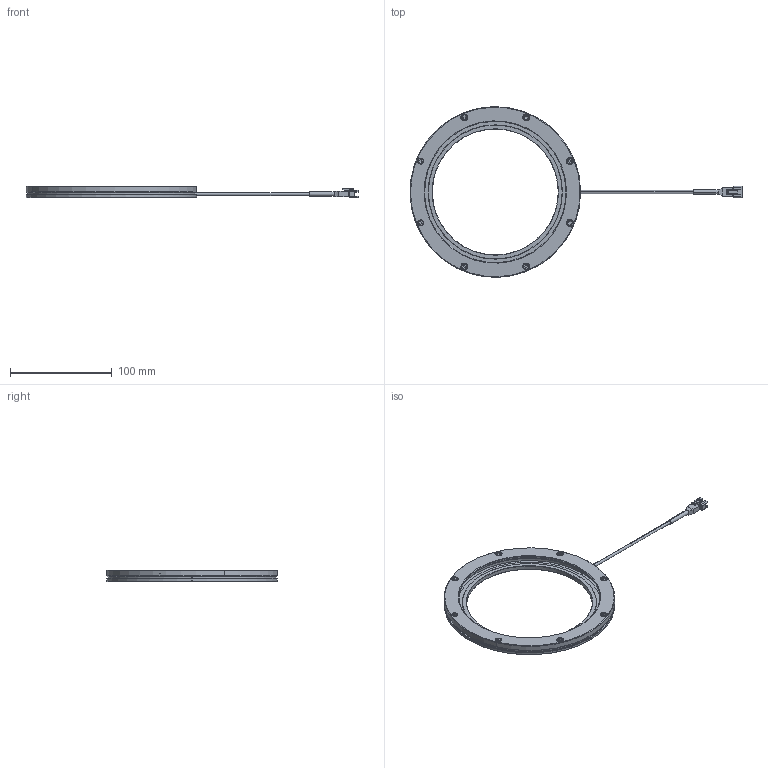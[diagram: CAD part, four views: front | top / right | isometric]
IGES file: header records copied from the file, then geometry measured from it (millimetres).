
Start section: 3D InterOp IGES (v. 2019 1.0.2), Spatial Corp. Copyright (c) 1999-2017.
Global section: file name: VHR168124_Drawing_L1118A-A00100.iges; native system: Spatial Corp.; preprocessor: 3D InterOp ACIS/IGES; author: Noname; organization: Noname; date: 20230901.140937; units: millimetre
Bounding box: 327 x 168 x 11 mm (x, y, z)
Surface area: 51704.6 mm2 (no closed solid volume)
Topology: 0 solids, 0 shells, 566 faces, 2572 edges, 2572 vertices
Faces by surface type: extrusion 300, revolution 261, bspline 5
